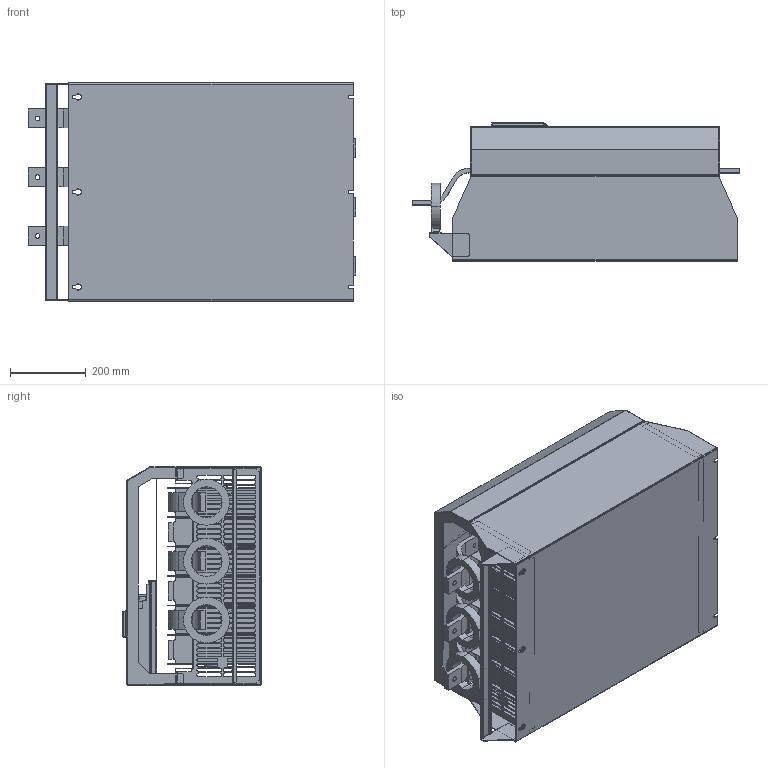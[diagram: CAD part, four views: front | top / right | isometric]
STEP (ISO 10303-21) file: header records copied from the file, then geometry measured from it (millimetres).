
FILE_DESCRIPTION (( 'STEP AP214' ), '1' );
FILE_NAME ('EMX3 G5X General Assembly, Simplified, Top-Bot, 21NOV12.STEP', '2012-11-27T01:03:37', ( '' ), ( '' ), 'SwSTEP 2.0', 'SolidWorks 2012', '' );
FILE_SCHEMA (( 'AUTOMOTIVE_DESIGN' ));
Length unit declared in the file: millimetre
Products named in the file (1): EMX3 G5X General Assembly, Simplified, Top-Bot, 21NOV12
Bounding box: 861 x 364.05 x 573.8 mm (x, y, z)
Volume: 53008941.4 mm3; surface area: 8052990.8 mm2
Topology: 54 solids, 54 shells, 4068 faces, 10809 edges, 7051 vertices
Faces by surface type: plane 2227, cylinder 1128, bspline 519, cone 140, torus 33, sphere 21
Entity records: 187286 total; most frequent: CARTESIAN_POINT 41285, ORIENTED_EDGE 21604, DIRECTION 19346, EDGE_CURVE 10802, LINE 7122, VECTOR 7122, VERTEX_POINT 7051, AXIS2_PLACEMENT_3D 6112
